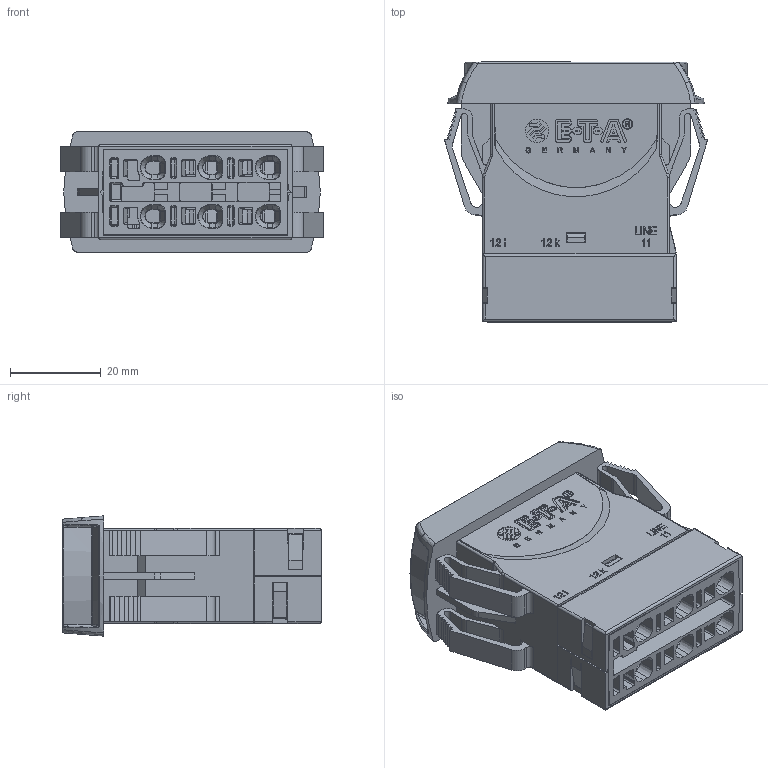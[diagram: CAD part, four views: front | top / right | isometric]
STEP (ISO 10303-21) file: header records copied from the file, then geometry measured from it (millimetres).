
FILE_DESCRIPTION((''),'2;1');
FILE_NAME('DUMMY-3120-N32D-PT','2019-08-07T11:31:36',('wschmidt'),(''),'CREO PARAMETRIC BY PTC INC, 2017260','CREO PARAMETRIC BY PTC INC, 2017260','');
FILE_SCHEMA(('AUTOMOTIVE_DESIGN { 1 0 10303 214 1 1 1 1 }'));
Products named in the file (1): DUMMY-3120-N32D-PT
Bounding box: 57.8 x 57.14 x 26.43 mm (x, y, z)
Volume: 43609.4 mm3; surface area: 28277.5 mm2
Topology: 1 solids, 14 shells, 3669 faces, 9902 edges, 6338 vertices
Faces by surface type: plane 1823, extrusion 834, cylinder 574, bspline 238, sphere 74, cone 67, torus 59
Entity records: 134887 total; most frequent: CARTESIAN_POINT 47345, ORIENTED_EDGE 19796, DIRECTION 14364, EDGE_CURVE 9898, VECTOR 7114, VERTEX_POINT 6338, LINE 6280, EDGE_LOOP 3886
